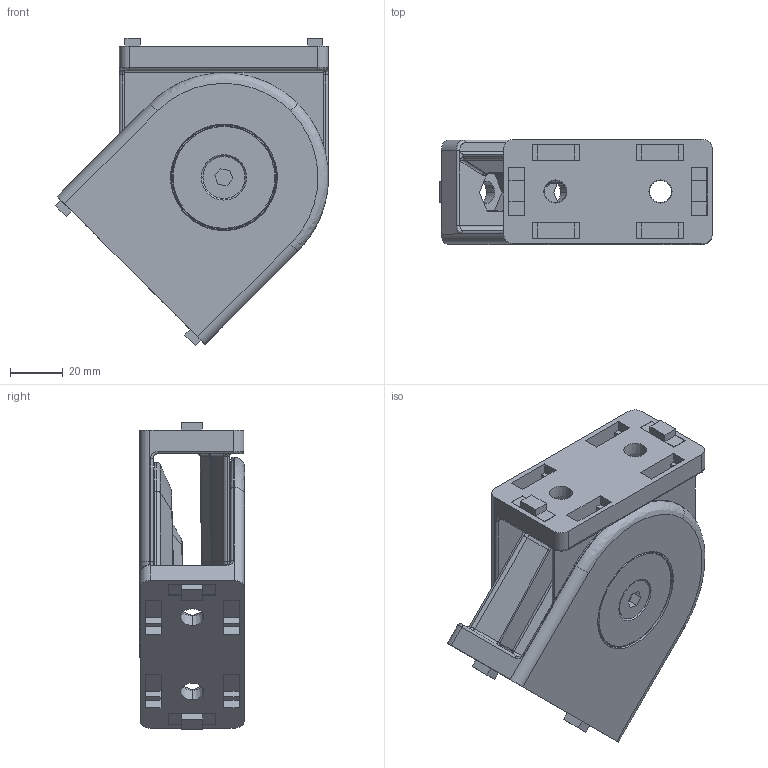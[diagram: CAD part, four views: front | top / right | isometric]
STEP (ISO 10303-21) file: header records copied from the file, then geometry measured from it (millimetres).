
FILE_DESCRIPTION (( 'STEP AP203' ), '1' );
FILE_NAME ('426030_Gelenk 8 40x80.step', '2022-06-27T08:22:00', ( '' ), ( '' ), 'SwSTEP 2.0', 'SolidWorks 2021', '' );
FILE_SCHEMA (( 'CONFIG_CONTROL_DESIGN' ));
Length unit declared in the file: millimetre
Products named in the file (6): 426030 Gelenk 40x80 Nut8_001; Nutzentrierung Nut 8-10 (groß); 426030 Gelenk 40x80 Nut8_002; 426030 Gelenk 40x80 Nut8_004; 426030_Gelenk 8 40x80; 426030 Gelenk 40x80 Nut8_003
Assembly tree (12 placements, depth 2):
  426030_Gelenk 8 40x80
    426030 Gelenk 40x80 Nut8_002  x2
    426030 Gelenk 40x80 Nut8_003  x2
    426030 Gelenk 40x80 Nut8_001  x2
    426030 Gelenk 40x80 Nut8_004  x2
    Nutzentrierung Nut 8-10 (groß)  x4
Bounding box: 103.93 x 40 x 117.13 mm (x, y, z)
Volume: 171591.8 mm3; surface area: 83950.9 mm2
Topology: 12 solids, 12 shells, 736 faces, 1814 edges, 1138 vertices
Faces by surface type: plane 352, cylinder 180, bspline 126, cone 78
Entity records: 13554 total; most frequent: CARTESIAN_POINT 4625, ORIENTED_EDGE 1738, DIRECTION 1659, EDGE_CURVE 869, AXIS2_PLACEMENT_3D 599, VERTEX_POINT 545, VECTOR 461, LINE 461
